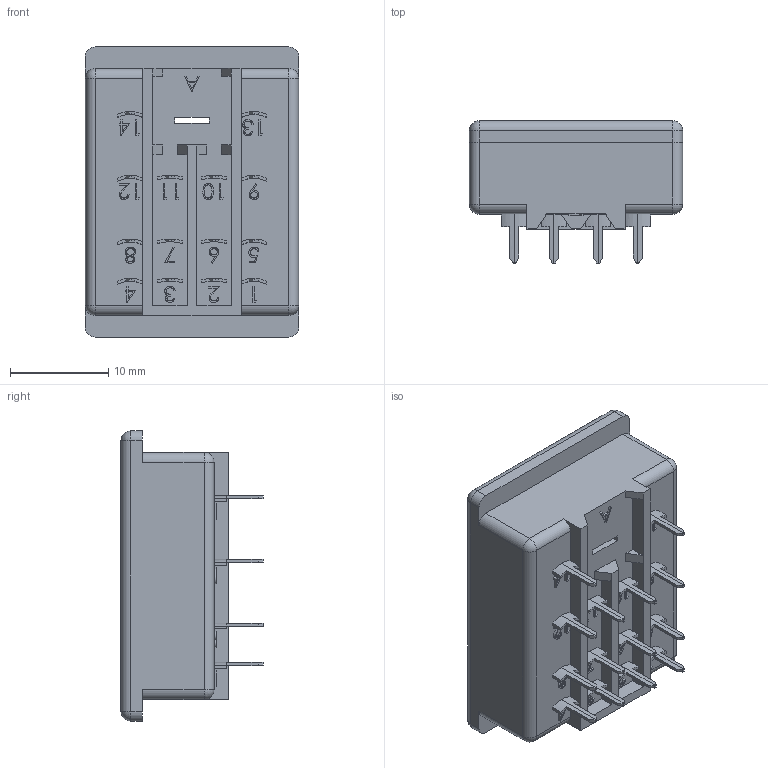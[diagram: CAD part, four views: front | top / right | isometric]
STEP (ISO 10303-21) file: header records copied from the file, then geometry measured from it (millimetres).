
FILE_DESCRIPTION (( 'STEP AP203' ), '1' );
FILE_NAME ('MSO4CI.STEP', '2019-09-12T17:00:02', ( '' ), ( '' ), 'SwSTEP 2.0', 'SolidWorks 2012', '' );
FILE_SCHEMA (( 'CONFIG_CONTROL_DESIGN' ));
Length unit declared in the file: millimetre
Products named in the file (1): MSO4CI
Bounding box: 21.75 x 14.5 x 29.6 mm (x, y, z)
Volume: 5047.2 mm3; surface area: 3158.5 mm2
Topology: 1 solids, 1 shells, 564 faces, 1515 edges, 994 vertices
Faces by surface type: plane 388, bspline 92, cylinder 76, sphere 8
Entity records: 22636 total; most frequent: CARTESIAN_POINT 9070, ORIENTED_EDGE 3014, DIRECTION 2421, EDGE_CURVE 1507, VECTOR 1059, LINE 1059, VERTEX_POINT 994, AXIS2_PLACEMENT_3D 681
